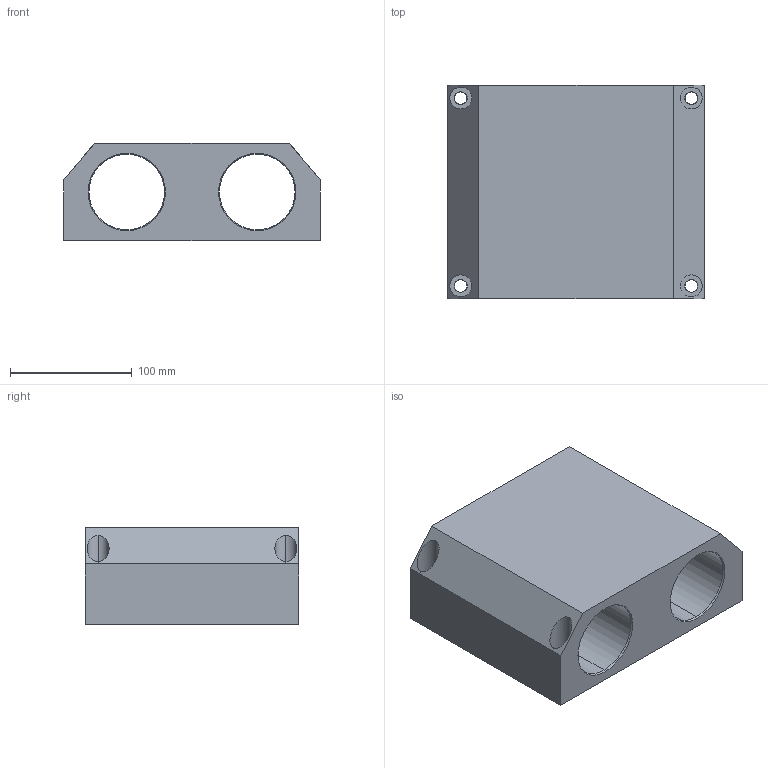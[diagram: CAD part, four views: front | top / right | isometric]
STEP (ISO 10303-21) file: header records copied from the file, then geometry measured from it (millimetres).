
FILE_DESCRIPTION (( 'STEP AP214' ), '1' );
FILE_NAME ('KQSGC-50.step', '2020-03-04T13:10:54', ( '' ), ( '' ), 'SwSTEP 2.0', 'SolidWorks 2019', '' );
FILE_SCHEMA (( 'AUTOMOTIVE_DESIGN' ));
Length unit declared in the file: millimetre
Products named in the file (1): KQSGC-50
Bounding box: 210 x 175 x 80 mm (x, y, z)
Volume: 1713811.8 mm3; surface area: 192831.9 mm2
Topology: 1 solids, 1 shells, 58 faces, 132 edges, 83 vertices
Faces by surface type: cylinder 30, plane 16, cone 12
Entity records: 1862 total; most frequent: DIRECTION 302, CARTESIAN_POINT 296, ORIENTED_EDGE 260, EDGE_CURVE 130, AXIS2_PLACEMENT_3D 121, VERTEX_POINT 83, EDGE_LOOP 79, CIRCLE 62
